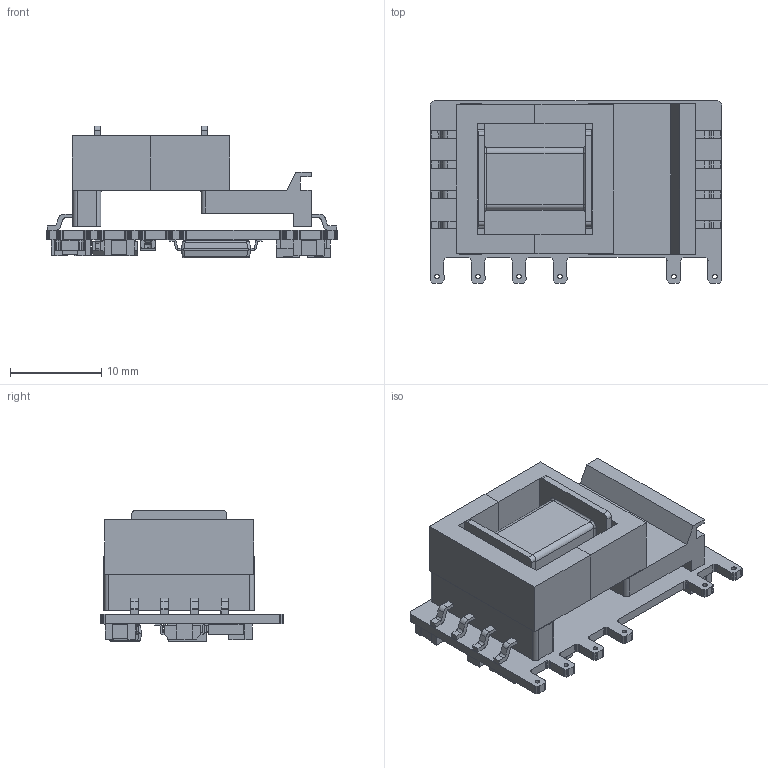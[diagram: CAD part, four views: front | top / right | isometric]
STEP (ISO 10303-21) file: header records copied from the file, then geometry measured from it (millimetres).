
FILE_DESCRIPTION (( 'STEP AP214' ), '1' );
FILE_NAME ('VTX-215-010-0xx.STEP', '2025-03-27T17:15:50', ( '' ), ( '' ), 'SwSTEP 2.0', 'SolidWorks 2022', '' );
FILE_SCHEMA (( 'AUTOMOTIVE_DESIGN' ));
Length unit declared in the file: millimetre
Products named in the file (35): MANIFOLD_SOLID_BREP_164926_1; S1206_C_1; SRTF1514_1; U2_ASM_1; MANIFOLD_SOLID_BREP_199881_1; C8_ASM_1; D3_ASM_1; MANIFOLD_SOLID_BREP_165808_1; MANIFOLD_SOLID_BREP_216929_1; PCB_ASM_1; D1_ASM_1; C3_ASM_1; MIF_SD1575_1; CIXINW_1; A6SF__1; D4A_ASM_1; MANIFOLD_SOLID_BREP_153570_1; MANIFOLD_SOLID_BREP_155334_1; MANIFOLD_SOLID_BREP_200763_1; MANIFOLD_SOLID_BREP_166690_1; U1_ASM_1; MANIFOLD_SOLID_BREP_154452_1; SOD-123_ASM_1; EL101X-151203_1; BOARD_1; MANIFOLD_SOLID_BREP_156216_1; SO-8_ASM_1; VTX-215-010-0xx; MANIFOLD_SOLID_BREP_167572_1; SMA_SD2010_1; MANIFOLD_SOLID_BREP_201645_1; 00-BYQ2_1; D2_ASM_1; D4_ASM_1; MANIFOLD_SOLID_BREP_152688_1
Assembly tree (44 placements, depth 5):
  VTX-215-010-0xx
    PCB_ASM_1
      BOARD_1
      U1_ASM_1
        SO-8_ASM_1
          MANIFOLD_SOLID_BREP_152688_1
          MANIFOLD_SOLID_BREP_153570_1
          MANIFOLD_SOLID_BREP_154452_1
          MANIFOLD_SOLID_BREP_155334_1
          MANIFOLD_SOLID_BREP_156216_1
          MANIFOLD_SOLID_BREP_164926_1
          MANIFOLD_SOLID_BREP_165808_1
          MANIFOLD_SOLID_BREP_166690_1
          MANIFOLD_SOLID_BREP_167572_1
      D4_ASM_1
        SMA_SD2010_1
      D3_ASM_1
        A6SF__1
        SOD-123_ASM_1
          MANIFOLD_SOLID_BREP_199881_1
          MANIFOLD_SOLID_BREP_200763_1
          MANIFOLD_SOLID_BREP_201645_1
          MANIFOLD_SOLID_BREP_216929_1
        MIF_SD1575_1
      D2_ASM_1
        A6SF__1
        SOD-123_ASM_1
          MANIFOLD_SOLID_BREP_199881_1
          MANIFOLD_SOLID_BREP_200763_1
          MANIFOLD_SOLID_BREP_201645_1
          MANIFOLD_SOLID_BREP_216929_1
        MIF_SD1575_1
      D1_ASM_1
        SRTF1514_1
      C8_ASM_1
        S1206_C_1  x2
      C3_ASM_1
        S1206_C_1
      D4A_ASM_1
        SMA_SD2010_1
      U2_ASM_1
        EL101X-151203_1
      00-BYQ2_1
      CIXINW_1  x2
      S1206_C_1  x3
Bounding box: 32.05 x 20.04 x 14.45 mm (x, y, z)
Volume: 2848.7 mm3; surface area: 4881.6 mm2
Topology: 35 solids, 35 shells, 1628 faces, 4392 edges, 2900 vertices
Faces by surface type: plane 1290, bspline 182, cylinder 156
Entity records: 59190 total; most frequent: CARTESIAN_POINT 17249, ORIENTED_EDGE 6234, DIRECTION 5124, EDGE_CURVE 3117, VECTOR 2430, LINE 2430, VERTEX_POINT 2054, AXIS2_PLACEMENT_3D 1347
